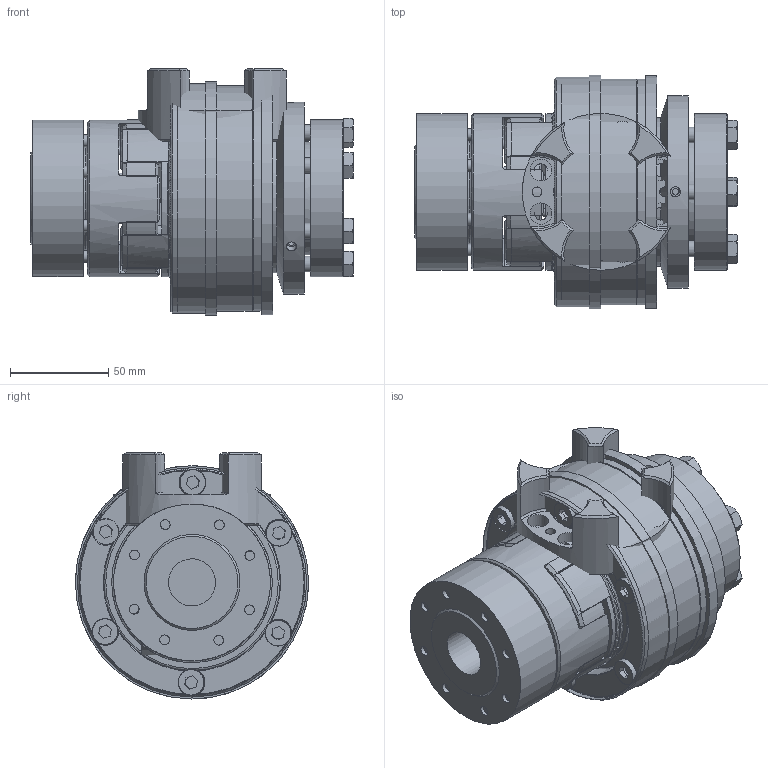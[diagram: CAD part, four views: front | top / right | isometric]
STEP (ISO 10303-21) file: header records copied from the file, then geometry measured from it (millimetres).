
FILE_DESCRIPTION( ( 'Unknown' ), '1' );
FILE_NAME( 'C:/Dokumente und Einstellungen/Sven/Desktop/hp kbk/E-AA/KBK EAA-38-162.stp', 'Unknown', ( 'Unknown' ), ( 'Unknown' ), 'XStep 1.0', 'Unknown', ' ' );
FILE_SCHEMA( ( 'automotive_design' ) );
Length unit declared in the file: millimetre
Products named in the file (19): Assem1; Assem2; Assem3; ball_bearing_-_6011_0_01_0; ball_bearing_-_6011_0_02_0; ball_bearing_-_6011_0_03_0; Zylinderschraube DIN 912_5; KBK L-A-300 Grundkörper_0; Druckring L-A-300_0; Flansch 300_0; Stellring 300_0; Druckring 300_0; a_55_0; din_en_24017_m8x30_0; Elastomerflansch 38_0; Zahnkranz_38_Standard_0; KBE 3 - 38_Nabe; KBE3-38_Druckring_0; ISO EN DIN 4762 M6x35
Bounding box: 164.7 x 119 x 125.5 mm (x, y, z)
Volume: 1858209.7 mm3; surface area: 555983 mm2
Topology: 53 solids, 53 shells, 1322 faces, 2864 edges, 1793 vertices
Faces by surface type: plane 471, cylinder 418, cone 357, torus 76
Full cylindrical faces by diameter (mm): 2.5 x4, 3.242 x6, 5 x49, 5.2 x6, 6 x18, 6.5 x16, 6.647 x24, 8 x15, 8.2 x12, 8.5 x12, 10 x9, 11 x16, 11.63 x7, 13 x8, 13.2 x12, 24 x2, 25 x2, 38 x4, 40 x2, 46 x2, 52 x2, 53 x2, 55 x7, 57.995 x2, 66.3 x6, 76 x4, 79.1 x6, 80 x8, 83.5 x2, 88 x2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
Entity records: 13650 total; most frequent: CARTESIAN_POINT 2879, DIRECTION 2270, ORIENTED_EDGE 1690, AXIS2_PLACEMENT_3D 1062, EDGE_CURVE 845, EDGE_LOOP 776, VERTEX_POINT 617, FACE_OUTER_BOUND 601
